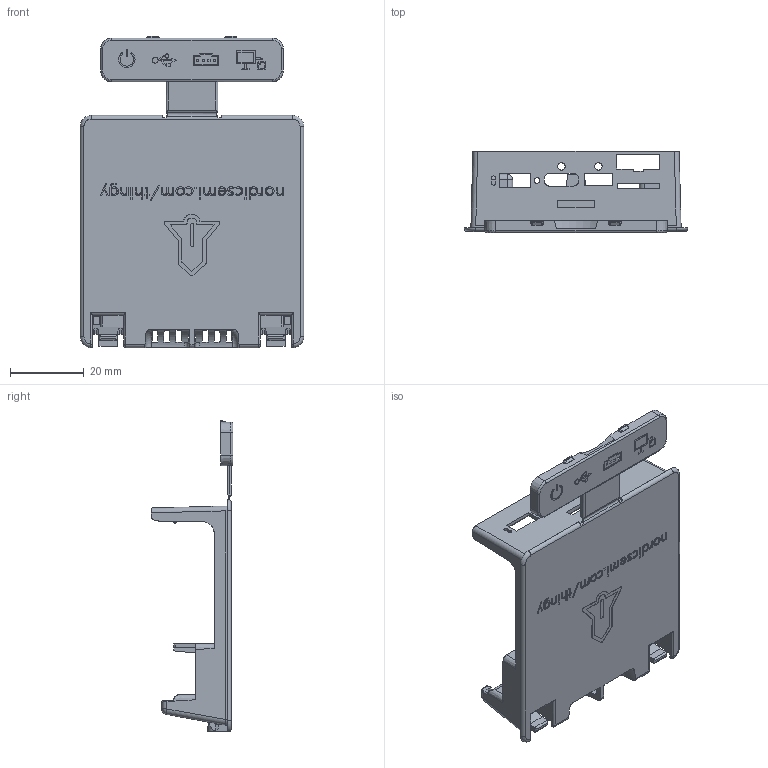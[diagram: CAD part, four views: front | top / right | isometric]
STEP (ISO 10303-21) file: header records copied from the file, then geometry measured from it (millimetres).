
FILE_DESCRIPTION (( 'STEP AP203' ), '1' );
FILE_NAME ('708001_B.step', '2023-08-30T07:17:01', ( '' ), ( '' ), 'SwSTEP 2.0', 'SolidWorks 2023', '' );
FILE_SCHEMA (( 'CONFIG_CONTROL_DESIGN' ));
Products named in the file (1): 708001_B
Bounding box: 60.45 x 22.06 x 84.25 mm (x, y, z)
Volume: 10766.6 mm3; surface area: 15832.8 mm2
Topology: 1 solids, 1 shells, 1024 faces, 2836 edges, 1845 vertices
Faces by surface type: plane 508, bspline 303, cylinder 171, sphere 17, cone 17, torus 8
Entity records: 36904 total; most frequent: CARTESIAN_POINT 13674, ORIENTED_EDGE 5652, DIRECTION 3465, EDGE_CURVE 2826, VERTEX_POINT 1845, LINE 1731, VECTOR 1731, EDGE_LOOP 1105
